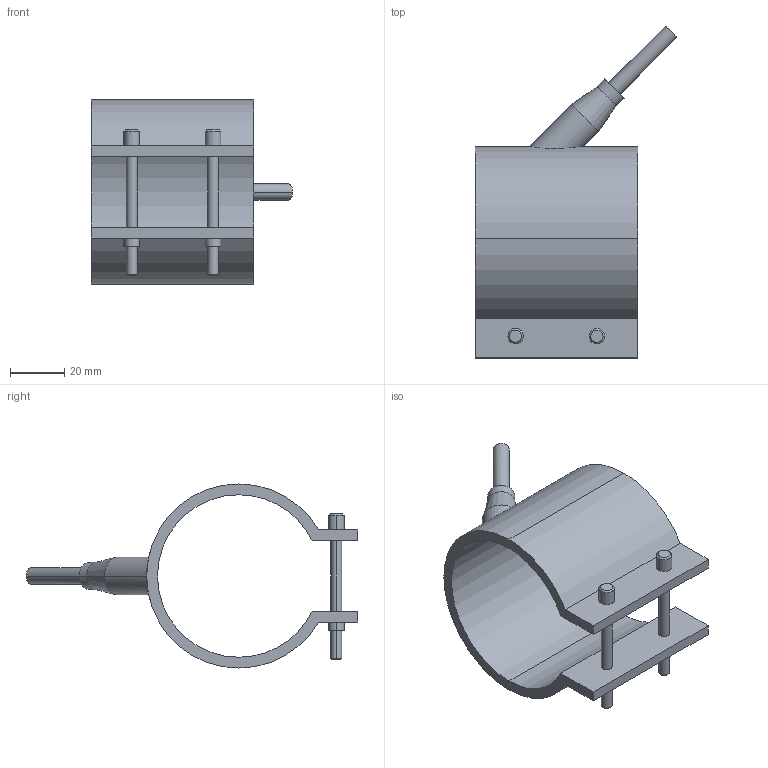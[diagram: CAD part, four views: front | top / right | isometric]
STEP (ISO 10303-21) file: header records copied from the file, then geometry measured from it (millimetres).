
FILE_DESCRIPTION(('CATIA V5 STEP Exchange'),'2;1');
FILE_NAME('C:\Users\Utente\Desktop\IO LAVORO\3D X SITO CF\X SITO\PLASTICA\RF1\29060060.stp','2021-03-27T09:52:07+00:00',('none'),('none'),'CATIA Version 5 Release 20 GA (IN-10)','CATIA V5 STEP AP203','none');
FILE_SCHEMA(('CONFIG_CONTROL_DESIGN'));
Length unit declared in the file: millimetre
Products named in the file (1): 29060060
Bounding box: 74.55 x 122.55 x 68 mm (x, y, z)
Volume: 54493.3 mm3; surface area: 29090.9 mm2
Topology: 1 solids, 1 shells, 54 faces, 126 edges, 82 vertices
Faces by surface type: cylinder 28, plane 16, cone 10
Entity records: 1756 total; most frequent: CARTESIAN_POINT 511, ORIENTED_EDGE 252, DIRECTION 212, EDGE_CURVE 126, AXIS2_PLACEMENT_3D 105, VERTEX_POINT 82, EDGE_LOOP 66, VECTOR 56
